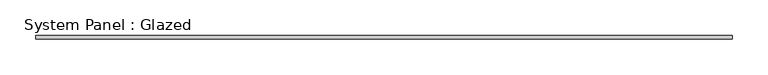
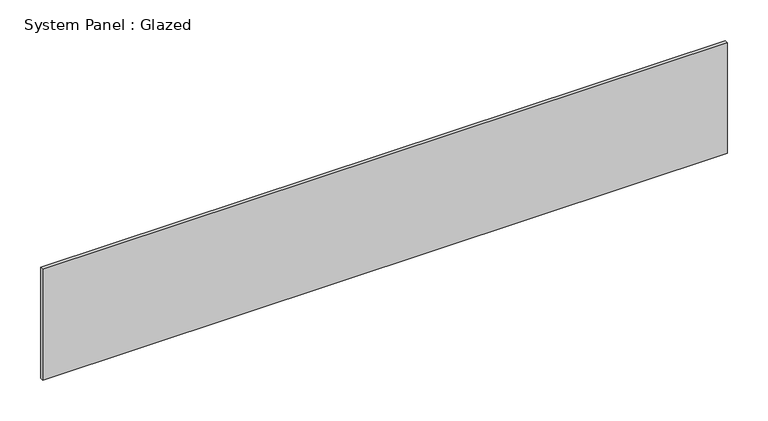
"""IFC4 building model written with IfcOpenShell, lengths in millimetres: plate geometry, System Panel : Glazed."""

from ifc_helpers import new_model, si_unit, origin, origin_with_axes, place, context, project, spatial, polyline, outline, extrude, source, transform, mapped, element, save


def system_panel_glazed_1192e014(model_context):
    return source(origin(), model_context, "Body", "SweptSolid", [
        extrude(outline(polyline([(487.5, -2.5), (-487.5, -2.5), (-487.5, 2.5), (487.5, 2.5), (487.5, -2.5)])), origin_with_axes(), (0.0, 0.0, 1.0), 166.8586803),
    ])


if __name__ == "__main__":
    model = new_model("IFC4")
    model_context = context("Model", 3, world=origin())
    ifc_project = project(units=[si_unit("LENGTHUNIT", "METRE", prefix="MILLI")], contexts=[model_context])
    site = spatial("IfcSite", under=ifc_project)
    building = spatial("IfcBuilding", under=site)
    placement = place(None, origin())
    system_panel_glazed_shape = system_panel_glazed_1192e014(model_context)
    element("IfcPlate", 1, ObjectType="System Panel : Glazed", at=placement, inside=building, context=model_context, shape_type="MappedRepresentation", body=[
        mapped(system_panel_glazed_shape, transform((0.0, 0.0, 0.0), x_axis=(1.0, 0.0, 0.0), y_axis=(0.0, 1.0, 0.0), z_axis=(0.0, 0.0, 1.0))),
    ])
    save(model, "model.ifc")
